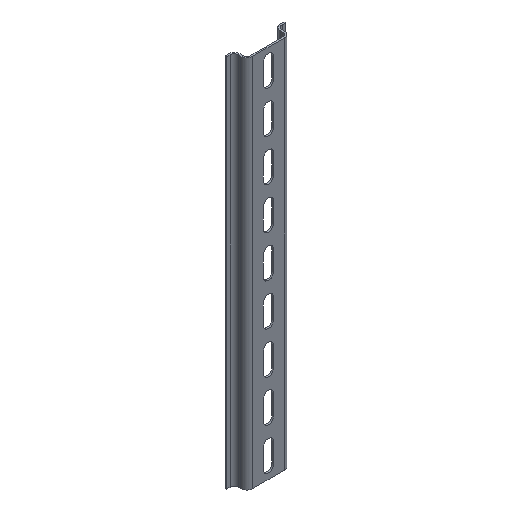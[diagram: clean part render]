
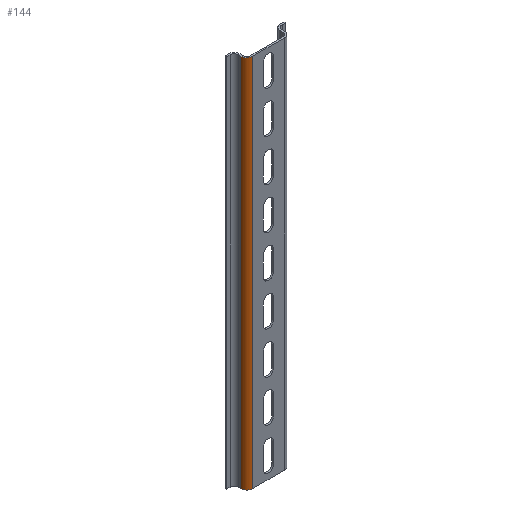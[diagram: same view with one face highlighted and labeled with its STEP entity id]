
A CAD part, isometric view. The second image highlights one B-rep face of the part: STEP entity #144.
In plain terms, the highlighted cylindrical face has radius 3.5 mm (diameter 7 mm), a partial arc.
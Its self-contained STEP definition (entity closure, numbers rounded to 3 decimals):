
#18 = CARTESIAN_POINT ( 'NONE',  ( -9.6, 2.5, 225. ) ) ;
#49 = DIRECTION ( 'NONE',  ( -1., 0., 0. ) ) ;
#92 = CARTESIAN_POINT ( 'NONE',  ( -13.1, 2.5, 225. ) ) ;
#110 = LINE ( 'NONE', #283, #1383 ) ;
#144 = ADVANCED_FACE ( 'NONE', ( #2440 ), #586, .T. ) ;
#189 = ORIENTED_EDGE ( 'NONE', *, *, #594, .F. ) ;
#190 = CARTESIAN_POINT ( 'NONE',  ( -9.6, -1., 225. ) ) ;
#283 = CARTESIAN_POINT ( 'NONE',  ( -13.1, 2.5, 225. ) ) ;
#481 = ORIENTED_EDGE ( 'NONE', *, *, #631, .F. ) ;
#586 = CYLINDRICAL_SURFACE ( 'NONE', #938, 3.5 ) ;
#591 = ORIENTED_EDGE ( 'NONE', *, *, #640, .T. ) ;
#594 = EDGE_CURVE ( 'NONE', #1002, #1169, #1035, .T. ) ;
#631 = EDGE_CURVE ( 'NONE', #1865, #1002, #910, .T. ) ;
#640 = EDGE_CURVE ( 'NONE', #1865, #826, #944, .T. ) ;
#772 = CARTESIAN_POINT ( 'NONE',  ( -13.1, 2.5, 0. ) ) ;
#774 = CARTESIAN_POINT ( 'NONE',  ( -9.6, 2.5, 0. ) ) ;
#826 = VERTEX_POINT ( 'NONE', #92 ) ;
#845 = DIRECTION ( 'NONE',  ( 0., 0., -1. ) ) ;
#910 = LINE ( 'NONE', #190, #1767 ) ;
#938 = AXIS2_PLACEMENT_3D ( 'NONE', #2452, #845, #49 ) ;
#944 = CIRCLE ( 'NONE', #1425, 3.5 ) ;
#1002 = VERTEX_POINT ( 'NONE', #1286 ) ;
#1035 = CIRCLE ( 'NONE', #2279, 3.5 ) ;
#1169 = VERTEX_POINT ( 'NONE', #772 ) ;
#1286 = CARTESIAN_POINT ( 'NONE',  ( -9.6, -1., 0. ) ) ;
#1383 = VECTOR ( 'NONE', #1879, 1000. ) ;
#1425 = AXIS2_PLACEMENT_3D ( 'NONE', #18, #1614, #2186 ) ;
#1431 = ORIENTED_EDGE ( 'NONE', *, *, #2156, .T. ) ;
#1539 = CARTESIAN_POINT ( 'NONE',  ( -9.6, -1., 225. ) ) ;
#1555 = DIRECTION ( 'NONE',  ( 0., 0., -1. ) ) ;
#1614 = DIRECTION ( 'NONE',  ( 0., 0., -1. ) ) ;
#1767 = VECTOR ( 'NONE', #1555, 1000. ) ;
#1865 = VERTEX_POINT ( 'NONE', #1539 ) ;
#1879 = DIRECTION ( 'NONE',  ( 0., 0., -1. ) ) ;
#1955 = DIRECTION ( 'NONE',  ( 0., 0., -1. ) ) ;
#1964 = EDGE_LOOP ( 'NONE', ( #189, #481, #591, #1431 ) ) ;
#2156 = EDGE_CURVE ( 'NONE', #826, #1169, #110, .T. ) ;
#2186 = DIRECTION ( 'NONE',  ( 1., 0., 0. ) ) ;
#2279 = AXIS2_PLACEMENT_3D ( 'NONE', #774, #1955, #2554 ) ;
#2440 = FACE_OUTER_BOUND ( 'NONE', #1964, .T. ) ;
#2452 = CARTESIAN_POINT ( 'NONE',  ( -9.6, 2.5, 225. ) ) ;
#2554 = DIRECTION ( 'NONE',  ( 1., 0., 0. ) ) ;
